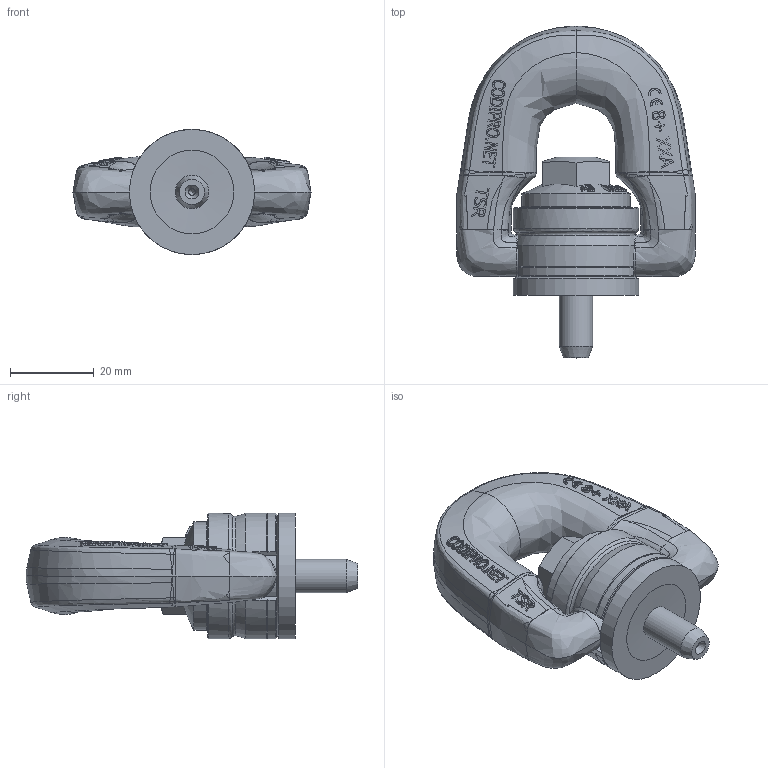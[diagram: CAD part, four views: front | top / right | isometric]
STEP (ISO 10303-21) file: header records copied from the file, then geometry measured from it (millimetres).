
FILE_DESCRIPTION(/* description */ (''),/* implementation_level */ '2;1');
FILE_NAME(/* name */ 'W:\CODIPRO\DOCUMENTS\Plans A NE PAS DIFFUSER !!!\Inventor\Standard Inventor\Produit Fini Inventor\DSP\Fichiers 3D\DSP M8.stp',/* time_stamp */ '2017-10-06T08:44:07+02:00',/* author */ ('rklenes'),/* organization */ (''),/* preprocessor_version */ 'ST-DEVELOPER v16.5',/* originating_system */ 'Autodesk Inventor 2017',/* authorisation */ '');
FILE_SCHEMA (('AUTOMOTIVE_DESIGN { 1 0 10303 214 3 1 1 }'));
Products named in the file (5): DSP M8; TSM_AO1C; DRA_M8X36; DRE_D1M8A; DRB_B1B
Assembly tree (4 placements, depth 2):
  DSP M8
    TSM_AO1C
    DRA_M8X36
    DRE_D1M8A
    DRB_B1B
Bounding box: 57.01 x 79.5 x 30 mm (x, y, z)
Volume: 43819.8 mm3; surface area: 16500 mm2
Topology: 4 solids, 4 shells, 690 faces, 1825 edges, 1145 vertices
Faces by surface type: bspline 370, plane 246, cone 34, cylinder 28, torus 11, sphere 1
Full cylindrical faces by diameter (mm): 1.6 x1, 8 x3, 8.2 x1, 10 x2, 14.7 x2, 15 x2, 22 x1, 26 x1, 30 x2
Entity records: 43690 total; most frequent: CARTESIAN_POINT 29295, ORIENTED_EDGE 3492, DIRECTION 1957, EDGE_CURVE 1746, VERTEX_POINT 1140, EDGE_LOOP 770, B_SPLINE_CURVE_WITH_KNOTS 752, AXIS2_PLACEMENT_3D 700
